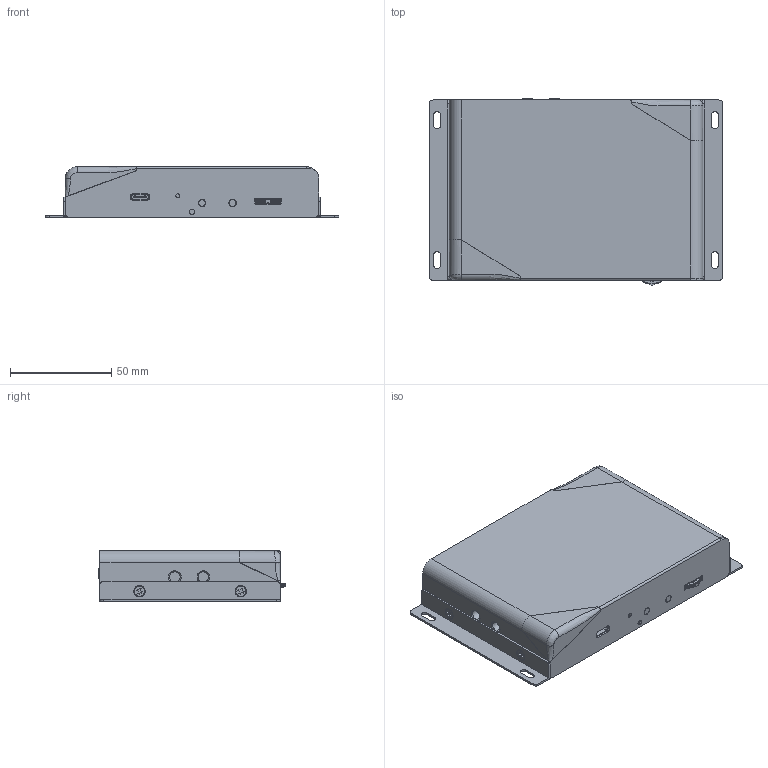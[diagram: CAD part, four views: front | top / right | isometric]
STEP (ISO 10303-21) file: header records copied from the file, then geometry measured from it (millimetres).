
FILE_DESCRIPTION (( 'STEP AP214' ), '1' );
FILE_NAME ('ASSY-BODDY-OIP-N40E.STEP', '2023-03-30T08:52:51', ( 'a' ), ( '' ), 'SwSTEP 2.0', 'SolidWorks 2020', '' );
FILE_SCHEMA (( 'AUTOMOTIVE_DESIGN' ));
Length unit declared in the file: millimetre
Products named in the file (35): ASSY-BODDY-OIP-N40E; Tally_LED; 1_M_ANY; BOGAIBAN.step; HTSYM-MTHU27_3D.step; 1_R_ANY; TACT1; IC-2; PRESS-BOTTOM-OIP-N40E; PJ-0004P-5B-L; 4700158-50G-SCREW-M3X4; PLSTIC-Light-OIP-N40E_挖槽1; SHELL_3NEW_ANY; BOKAJIAN.step; 2_M_ANY; BONIU.step; HTSYM-MTHU27_3D; PLASTIC_MAIN_ANY; 13404; IC-3; 4660182-lemb3_5-2-f--h3_5---ky; 2_L_ANY; 4700157-50-SCREW-M3X4; PCB_OIP40; 2_R_ANY; BOZUO.step; CHENGXINGTANHUANG.step; 3_SPACER_ANY; LED-SMT; ABA-HDM-020_ASM; PRESS-TOP-OIP-N40E; _P26-P63-1RG9_1; PCBA_OIP-N40E; PRESS-FIX3-OIP-N40E; 1_L_ANY
Assembly tree (68 placements, depth 5):
  ASSY-BODDY-OIP-N40E
    PRESS-TOP-OIP-N40E
    PRESS-BOTTOM-OIP-N40E
    4660182-lemb3_5-2-f--h3_5---ky  x2
    PRESS-FIX3-OIP-N40E  x2
    PLSTIC-Light-OIP-N40E_挖槽1  x2
    PCBA_OIP-N40E
      PCB_OIP40
      Tally_LED  x4
      HTSYM-MTHU27_3D
        HTSYM-MTHU27_3D.step
          BOKAJIAN.step
          BOZUO.step
          BOGAIBAN.step
          BONIU.step
          CHENGXINGTANHUANG.step
      LED-SMT  x2
      TACT1
      13404
      _P26-P63-1RG9_1
      PJ-0004P-5B-L  x2
      ABA-HDM-020_ASM  x2
        2_L_ANY
        1_L_ANY
        SHELL_3NEW_ANY
        2_R_ANY
        1_M_ANY
        2_M_ANY
        3_SPACER_ANY
        1_R_ANY
        PLASTIC_MAIN_ANY
      IC-2
      IC-3
    4700158-50G-SCREW-M3X4  x10
    4700157-50-SCREW-M3X4  x4
Bounding box: 145 x 91.84 x 25 mm (x, y, z)
Volume: 63043.5 mm3; surface area: 107869.8 mm2
Topology: 92 solids, 92 shells, 7861 faces, 21509 edges, 13901 vertices
Faces by surface type: plane 5147, cylinder 2423, bspline 102, cone 98, torus 89, sphere 2
Entity records: 130073 total; most frequent: CARTESIAN_POINT 27742, ORIENTED_EDGE 21216, DIRECTION 20920, EDGE_CURVE 10608, VECTOR 7494, LINE 7494, VERTEX_POINT 6815, AXIS2_PLACEMENT_3D 6713
